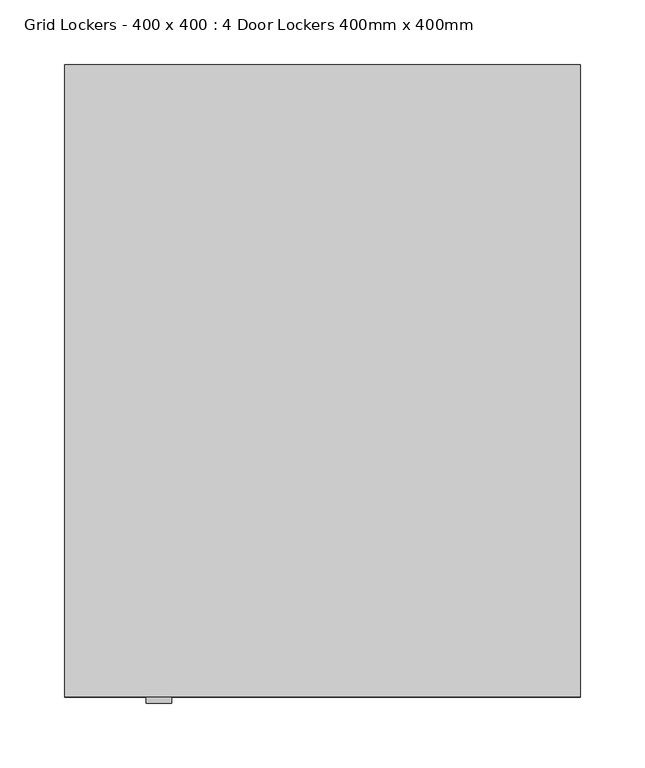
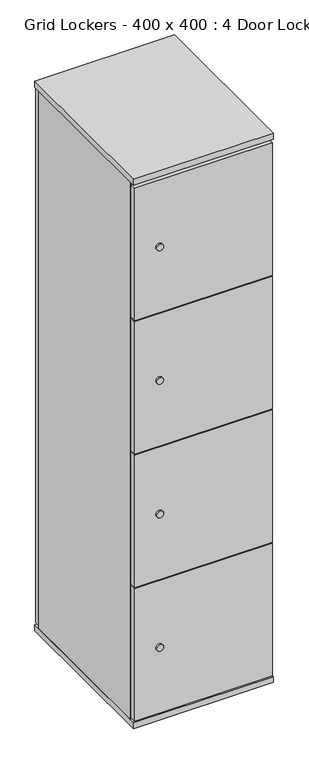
"""IFC4 building model written with IfcOpenShell, lengths in millimetres: furniture geometry, Grid Lockers - 400 x 400 : 4 Door Lockers 400mm x 400mm."""

from ifc_helpers import new_model, si_unit, point, frame, frame_2d, origin, origin_with_axes, place, context, project, spatial, polyline, circle_curve, trimmed, segment, composite_curve, outline, extrude, source, transform, mapped, element, save


def grid_lockers_400_x_400_4_door_lockers_400mm_x_400mm_3aeaf8d1(model_context):
    return source(origin(), model_context, "Body", "SweptSolid", [
        extrude(outline(composite_curve([segment(trimmed(circle_curve(frame_2d((1443.5863242, 73.2979632)), 10.0), [point((1443.5863242, 63.2979632))], [point((1443.5863242, 83.2979632))], False, "CARTESIAN"), True, "CONTINUOUS"), segment(trimmed(circle_curve(frame_2d((1443.5863242, 73.2979632)), 10.0), [point((1443.5863242, 83.2979632))], [point((1443.5863242, 63.2979632))], False, "CARTESIAN"), True, "CONTINUOUS")], self_intersect=False)), frame((0.0, -495.0, 0.0), z_axis=(0.0, 1.0, 0.0), x_axis=(0.0, 0.0, 1.0)), (0.0, 0.0, 1.0), 5.0),
        extrude(outline(polyline([(397.0, -490.0), (3.0, -490.0), (3.0, -472.0), (397.0, -472.0), (397.0, -490.0)])), frame((0.0, 0.0, 1243.8307712), z_axis=(0.0, 0.0, 1.0), x_axis=(1.0, 0.0, 0.0)), (0.0, 0.0, 1.0), 400.0),
        extrude(outline(composite_curve([segment(trimmed(circle_curve(frame_2d((1039.7649573, 73.2979632)), 10.0), [point((1039.7649573, 63.2979632))], [point((1039.7649573, 83.2979632))], False, "CARTESIAN"), True, "CONTINUOUS"), segment(trimmed(circle_curve(frame_2d((1039.7649573, 73.2979632)), 10.0), [point((1039.7649573, 83.2979632))], [point((1039.7649573, 63.2979632))], False, "CARTESIAN"), True, "CONTINUOUS")], self_intersect=False)), frame((0.0, -495.0, 0.0), z_axis=(0.0, 1.0, 0.0), x_axis=(0.0, 0.0, 1.0)), (0.0, 0.0, 1.0), 5.0),
        extrude(outline(polyline([(397.0, -490.0), (3.0, -490.0), (3.0, -472.0), (397.0, -472.0), (397.0, -490.0)])), frame((0.0, 0.0, 839.8871808), z_axis=(0.0, 0.0, 1.0), x_axis=(1.0, 0.0, 0.0)), (0.0, 0.0, 1.0), 400.0),
        extrude(outline(composite_curve([segment(trimmed(circle_curve(frame_2d((635.9435904, 73.2979632)), 10.0), [point((635.9435904, 63.2979632))], [point((635.9435904, 83.2979632))], False, "CARTESIAN"), True, "CONTINUOUS"), segment(trimmed(circle_curve(frame_2d((635.9435904, 73.2979632)), 10.0), [point((635.9435904, 83.2979632))], [point((635.9435904, 63.2979632))], False, "CARTESIAN"), True, "CONTINUOUS")], self_intersect=False)), frame((0.0, -495.0, 0.0), z_axis=(0.0, 1.0, 0.0), x_axis=(0.0, 0.0, 1.0)), (0.0, 0.0, 1.0), 5.0),
        extrude(outline(polyline([(397.0, -490.0), (3.0, -490.0), (3.0, -472.0), (397.0, -472.0), (397.0, -490.0)])), frame((0.0, 0.0, 435.9435904), z_axis=(0.0, 0.0, 1.0), x_axis=(1.0, 0.0, 0.0)), (0.0, 0.0, 1.0), 400.0),
        extrude(outline(composite_curve([segment(trimmed(circle_curve(frame_2d((350.0, -50.0)), 15.0), [point((335.0, -50.0))], [point((365.0, -50.0))], False, "CARTESIAN"), True, "CONTINUOUS"), segment(trimmed(circle_curve(frame_2d((350.0, -50.0)), 15.0), [point((365.0, -50.0))], [point((335.0, -50.0))], False, "CARTESIAN"), True, "CONTINUOUS")], self_intersect=False)), origin_with_axes(), (0.0, 0.0, 1.0), 10.0),
        extrude(outline(composite_curve([segment(trimmed(circle_curve(frame_2d((50.0, -50.0)), 15.0), [point((35.0, -50.0))], [point((65.0, -50.0))], False, "CARTESIAN"), True, "CONTINUOUS"), segment(trimmed(circle_curve(frame_2d((50.0, -50.0)), 15.0), [point((65.0, -50.0))], [point((35.0, -50.0))], False, "CARTESIAN"), True, "CONTINUOUS")], self_intersect=False)), origin_with_axes(), (0.0, 0.0, 1.0), 10.0),
        extrude(outline(composite_curve([segment(trimmed(circle_curve(frame_2d((50.0, -440.0)), 15.0), [point((35.0, -440.0))], [point((65.0, -440.0))], False, "CARTESIAN"), True, "CONTINUOUS"), segment(trimmed(circle_curve(frame_2d((50.0, -440.0)), 15.0), [point((65.0, -440.0))], [point((35.0, -440.0))], False, "CARTESIAN"), True, "CONTINUOUS")], self_intersect=False)), origin_with_axes(), (0.0, 0.0, 1.0), 10.0),
        extrude(outline(composite_curve([segment(trimmed(circle_curve(frame_2d((350.0, -440.0)), 15.0), [point((335.0, -440.0))], [point((365.0, -440.0))], False, "CARTESIAN"), True, "CONTINUOUS"), segment(trimmed(circle_curve(frame_2d((350.0, -440.0)), 15.0), [point((365.0, -440.0))], [point((335.0, -440.0))], False, "CARTESIAN"), True, "CONTINUOUS")], self_intersect=False)), origin_with_axes(), (0.0, 0.0, 1.0), 10.0),
        extrude(outline(polyline([(400.0, -490.0), (0.0, -490.0), (0.0, 0.0), (400.0, 0.0), (400.0, -490.0)])), frame((0.0, 0.0, 1654.0), z_axis=(0.0, 0.0, 1.0), x_axis=(1.0, 0.0, 0.0)), (0.0, 0.0, 1.0), 18.0),
        extrude(outline(polyline([(400.0, -490.0), (0.0, -490.0), (0.0, 0.0), (400.0, 0.0), (400.0, -490.0)])), frame((0.0, 0.0, 10.0), z_axis=(0.0, 0.0, 1.0), x_axis=(1.0, 0.0, 0.0)), (0.0, 0.0, 1.0), 18.0),
        extrude(outline(composite_curve([segment(trimmed(circle_curve(frame_2d((232.1222235, 73.2979632)), 10.0), [point((232.1222235, 63.2979632))], [point((232.1222235, 83.2979632))], False, "CARTESIAN"), True, "CONTINUOUS"), segment(trimmed(circle_curve(frame_2d((232.1222235, 73.2979632)), 10.0), [point((232.1222235, 83.2979632))], [point((232.1222235, 63.2979632))], False, "CARTESIAN"), True, "CONTINUOUS")], self_intersect=False)), frame((0.0, -495.0, 0.0), z_axis=(0.0, 1.0, 0.0), x_axis=(0.0, 0.0, 1.0)), (0.0, 0.0, 1.0), 5.0),
        extrude(outline(polyline([(397.0, -490.0), (3.0, -490.0), (3.0, -472.0), (397.0, -472.0), (397.0, -490.0)])), frame((0.0, 0.0, 32.0), z_axis=(0.0, 0.0, 1.0), x_axis=(1.0, 0.0, 0.0)), (0.0, 0.0, 1.0), 400.0),
        extrude(outline(polyline([(400.0, -18.0), (400.0, -472.0), (0.0, -472.0), (0.0, -18.0), (400.0, -18.0)])), frame((0.0, 0.0, 28.0), z_axis=(0.0, 0.0, 1.0), x_axis=(1.0, 0.0, 0.0)), (0.0, 0.0, 1.0), 1626.0),
        extrude(outline(polyline([(397.0, 0.0), (397.0, -18.0), (3.0, -18.0), (3.0, 0.0), (397.0, 0.0)])), frame((0.0, 0.0, 32.0), z_axis=(0.0, 0.0, 1.0), x_axis=(1.0, 0.0, 0.0)), (0.0, 0.0, 1.0), 1622.0),
    ])


if __name__ == "__main__":
    model = new_model("IFC4")
    model_context = context("Model", 3, world=origin())
    ifc_project = project(units=[si_unit("LENGTHUNIT", "METRE", prefix="MILLI")], contexts=[model_context])
    site = spatial("IfcSite", under=ifc_project)
    building = spatial("IfcBuilding", under=site)
    placement = place(None, origin())
    grid_lockers_400_x_400_4_door_lockers_400mm_x_400mm_shape = grid_lockers_400_x_400_4_door_lockers_400mm_x_400mm_3aeaf8d1(model_context)
    element("IfcFurniture", 1, ObjectType="Grid Lockers - 400 x 400 : 4 Door Lockers 400mm x 400mm", at=placement, inside=building, context=model_context, shape_type="MappedRepresentation", body=[
        mapped(grid_lockers_400_x_400_4_door_lockers_400mm_x_400mm_shape, transform((0.0, 0.0, 0.0), x_axis=(1.0, 0.0, 0.0), y_axis=(0.0, 1.0, 0.0), z_axis=(0.0, 0.0, 1.0))),
    ])
    save(model, "model.ifc")
